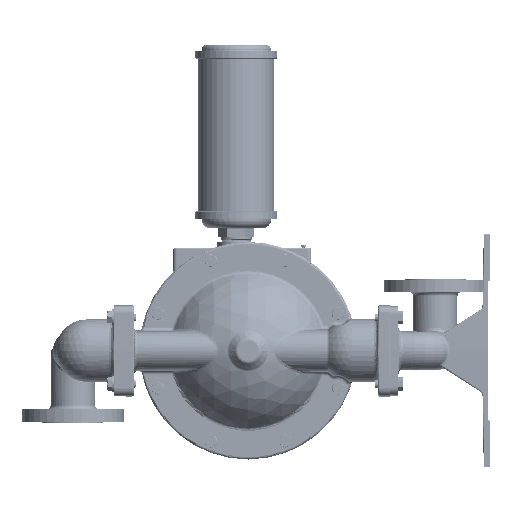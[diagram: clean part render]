
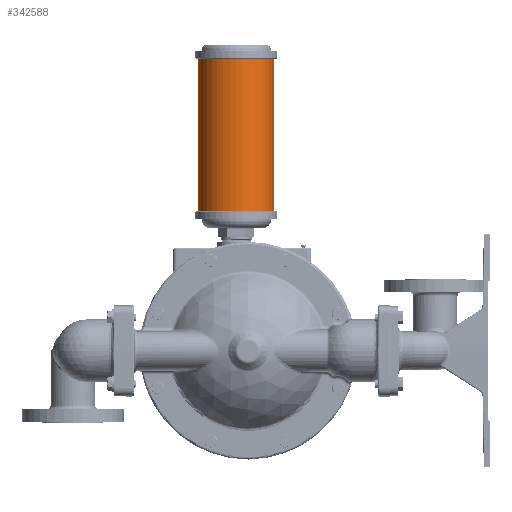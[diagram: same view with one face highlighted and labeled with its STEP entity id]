
A CAD part, left-side view. The second image highlights one B-rep face of the part: STEP entity #342588.
In plain terms, the highlighted cylindrical face has radius 61.722 mm (diameter 123.444 mm), a partial arc.
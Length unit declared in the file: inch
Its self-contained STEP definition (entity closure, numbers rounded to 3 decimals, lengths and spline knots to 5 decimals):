
#12124 = DIRECTION ( 'NONE',  ( 0., 0., 1. ) ) ;
#15952 = ORIENTED_EDGE ( 'NONE', *, *, #23869, .T. ) ;
#16356 = CARTESIAN_POINT ( 'NONE',  ( 0., -1.68, 8.905 ) ) ;
#23869 = EDGE_CURVE ( 'NONE', #402214, #442143, #27806, .T. ) ;
#27806 = CIRCLE ( 'NONE', #323432, 2.43 ) ;
#38582 = DIRECTION ( 'NONE',  ( 0., 0., 1. ) ) ;
#69699 = AXIS2_PLACEMENT_3D ( 'NONE', #75155, #196829, #485141 ) ;
#75155 = CARTESIAN_POINT ( 'NONE',  ( 0., 0.75, 20.1725 ) ) ;
#93141 = CARTESIAN_POINT ( 'NONE',  ( 0., 3.18, 8.905 ) ) ;
#106877 = CARTESIAN_POINT ( 'NONE',  ( 0., -1.68, 18.685 ) ) ;
#121485 = DIRECTION ( 'NONE',  ( 0., 1., 0. ) ) ;
#147773 = VERTEX_POINT ( 'NONE', #453351 ) ;
#165016 = ORIENTED_EDGE ( 'NONE', *, *, #272948, .F. ) ;
#168058 = DIRECTION ( 'NONE',  ( 0., 1., 0. ) ) ;
#179283 = CARTESIAN_POINT ( 'NONE',  ( 0., 3.18, 8.905 ) ) ;
#181480 = CIRCLE ( 'NONE', #468879, 2.43 ) ;
#196829 = DIRECTION ( 'NONE',  ( 0., 0., -1. ) ) ;
#203160 = EDGE_CURVE ( 'NONE', #442143, #349755, #249280, .T. ) ;
#249280 = LINE ( 'NONE', #16356, #306150 ) ;
#272948 = EDGE_CURVE ( 'NONE', #402214, #147773, #293068, .T. ) ;
#281022 = ORIENTED_EDGE ( 'NONE', *, *, #203160, .T. ) ;
#293068 = LINE ( 'NONE', #179283, #351190 ) ;
#306150 = VECTOR ( 'NONE', #423704, 39.37008 ) ;
#318475 = FACE_OUTER_BOUND ( 'NONE', #459027, .T. ) ;
#323432 = AXIS2_PLACEMENT_3D ( 'NONE', #521064, #12124, #121485 ) ;
#324163 = CARTESIAN_POINT ( 'NONE',  ( 0., 0.75, 18.685 ) ) ;
#340544 = DIRECTION ( 'NONE',  ( 0., 0., 1. ) ) ;
#342588 = ADVANCED_FACE ( 'NONE', ( #318475 ), #517067, .T. ) ;
#348456 = EDGE_CURVE ( 'NONE', #147773, #349755, #181480, .T. ) ;
#349755 = VERTEX_POINT ( 'NONE', #106877 ) ;
#351190 = VECTOR ( 'NONE', #340544, 39.37008 ) ;
#402214 = VERTEX_POINT ( 'NONE', #93141 ) ;
#423704 = DIRECTION ( 'NONE',  ( 0., 0., 1. ) ) ;
#442143 = VERTEX_POINT ( 'NONE', #502000 ) ;
#453351 = CARTESIAN_POINT ( 'NONE',  ( 0., 3.18, 18.685 ) ) ;
#454069 = ORIENTED_EDGE ( 'NONE', *, *, #348456, .F. ) ;
#459027 = EDGE_LOOP ( 'NONE', ( #15952, #281022, #454069, #165016 ) ) ;
#468879 = AXIS2_PLACEMENT_3D ( 'NONE', #324163, #38582, #168058 ) ;
#485141 = DIRECTION ( 'NONE',  ( 0., -1., 0. ) ) ;
#502000 = CARTESIAN_POINT ( 'NONE',  ( 0., -1.68, 8.905 ) ) ;
#517067 = CYLINDRICAL_SURFACE ( 'NONE', #69699, 2.43 ) ;
#521064 = CARTESIAN_POINT ( 'NONE',  ( 0., 0.75, 8.905 ) ) ;
